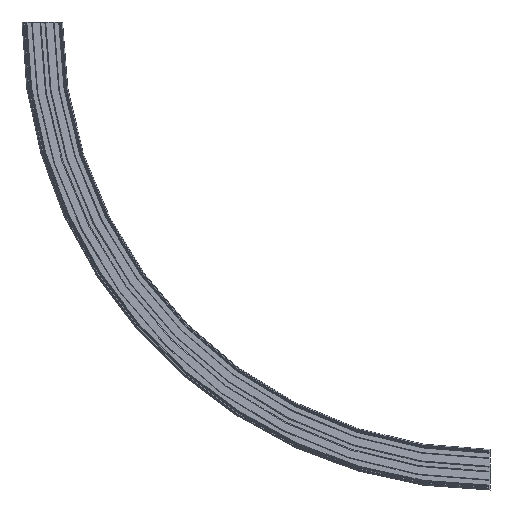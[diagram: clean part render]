
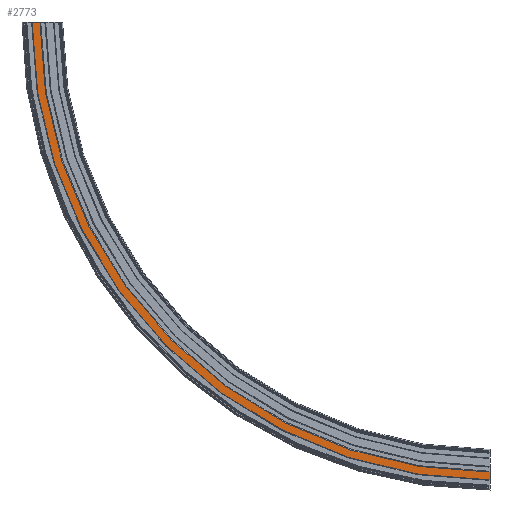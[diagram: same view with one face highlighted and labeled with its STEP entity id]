
A CAD part, left-side view. The second image highlights one B-rep face of the part: STEP entity #2773.
In plain terms, the highlighted planar face has unit normal (-1, 0, 0).
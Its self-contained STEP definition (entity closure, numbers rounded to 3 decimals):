
#267=CIRCLE('',#3020,865.5);
#268=CIRCLE('',#3022,880.5);
#442=FACE_OUTER_BOUND('',#596,.T.);
#596=EDGE_LOOP('',(#2171,#2172,#2173,#2174));
#773=LINE('',#9181,#979);
#774=LINE('',#9183,#980);
#979=VECTOR('',#3622,10.);
#980=VECTOR('',#3623,10.);
#1235=VERTEX_POINT('',#9174);
#1236=VERTEX_POINT('',#9176);
#1237=VERTEX_POINT('',#9180);
#1238=VERTEX_POINT('',#9182);
#1602=EDGE_CURVE('',#1235,#1236,#267,.T.);
#1603=EDGE_CURVE('',#1237,#1235,#773,.T.);
#1604=EDGE_CURVE('',#1238,#1236,#774,.T.);
#1605=EDGE_CURVE('',#1237,#1238,#268,.T.);
#2171=ORIENTED_EDGE('',*,*,#1603,.T.);
#2172=ORIENTED_EDGE('',*,*,#1602,.T.);
#2173=ORIENTED_EDGE('',*,*,#1604,.F.);
#2174=ORIENTED_EDGE('',*,*,#1605,.F.);
#2663=PLANE('',#3021);
#2773=ADVANCED_FACE('',(#442),#2663,.T.);
#3020=AXIS2_PLACEMENT_3D('',#9178,#3618,#3619);
#3021=AXIS2_PLACEMENT_3D('',#9179,#3620,#3621);
#3022=AXIS2_PLACEMENT_3D('',#9184,#3624,#3625);
#3618=DIRECTION('center_axis',(1.,0.,0.));
#3619=DIRECTION('ref_axis',(0.,0.,-1.));
#3620=DIRECTION('center_axis',(-1.,0.,0.));
#3621=DIRECTION('ref_axis',(0.,0.,1.));
#3622=DIRECTION('',(0.,0.,1.));
#3623=DIRECTION('',(0.,-1.,0.));
#3624=DIRECTION('center_axis',(1.,0.,0.));
#3625=DIRECTION('ref_axis',(0.,0.,-1.));
#9174=CARTESIAN_POINT('',(-32.,0.,-5.5));
#9176=CARTESIAN_POINT('',(-32.,865.5,860.));
#9178=CARTESIAN_POINT('Origin',(-32.,0.,860.));
#9179=CARTESIAN_POINT('Origin',(-32.,0.,-20.5));
#9180=CARTESIAN_POINT('',(-32.,0.,-20.5));
#9181=CARTESIAN_POINT('',(-32.,0.,-20.5));
#9182=CARTESIAN_POINT('',(-32.,880.5,860.));
#9183=CARTESIAN_POINT('',(-32.,880.5,860.));
#9184=CARTESIAN_POINT('Origin',(-32.,0.,860.));
